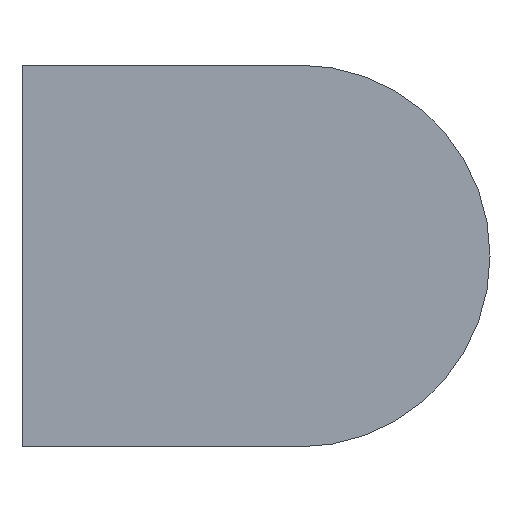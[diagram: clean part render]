
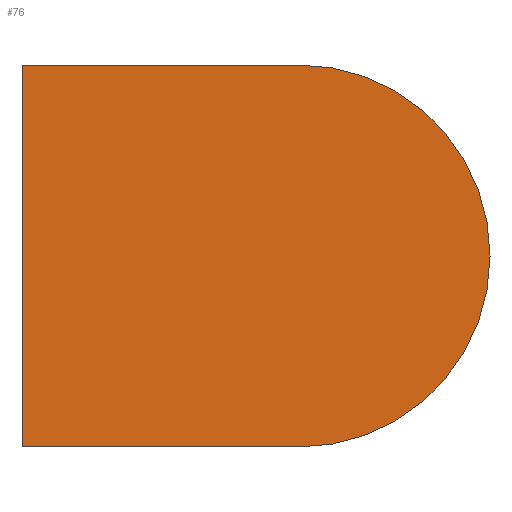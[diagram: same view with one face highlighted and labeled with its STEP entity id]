
A CAD part, front view. The second image highlights one B-rep face of the part: STEP entity #76.
In plain terms, the highlighted planar face has unit normal (0, -1, 0).
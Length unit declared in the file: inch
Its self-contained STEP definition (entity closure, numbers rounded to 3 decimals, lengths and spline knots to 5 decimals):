
#5 = LINE ( 'NONE', #176, #127 ) ;
#7 = CARTESIAN_POINT ( 'NONE',  ( -0.243, 0., -0.1675 ) ) ;
#8 = PLANE ( 'NONE',  #167 ) ;
#9 = CIRCLE ( 'NONE', #315, 0.1675 ) ;
#24 = EDGE_CURVE ( 'NONE', #110, #138, #198, .T. ) ;
#31 = CARTESIAN_POINT ( 'NONE',  ( -0.243, 0., 0.1675 ) ) ;
#32 = DIRECTION ( 'NONE',  ( 0., -1., 0. ) ) ;
#44 = EDGE_CURVE ( 'NONE', #139, #89, #9, .T. ) ;
#59 = DIRECTION ( 'NONE',  ( 1., 0., 0. ) ) ;
#60 = CARTESIAN_POINT ( 'NONE',  ( 0., 0., 0. ) ) ;
#72 = CARTESIAN_POINT ( 'NONE',  ( -0.243, 0., 0. ) ) ;
#76 = ADVANCED_FACE ( 'NONE', ( #306 ), #8, .F. ) ;
#83 = DIRECTION ( 'NONE',  ( 0., 0., 1. ) ) ;
#88 = ORIENTED_EDGE ( 'NONE', *, *, #24, .F. ) ;
#89 = VERTEX_POINT ( 'NONE', #232 ) ;
#99 = EDGE_LOOP ( 'NONE', ( #309, #88, #307, #222 ) ) ;
#103 = VECTOR ( 'NONE', #302, 39.37008 ) ;
#107 = DIRECTION ( 'NONE',  ( 0., 1., 0. ) ) ;
#110 = VERTEX_POINT ( 'NONE', #7 ) ;
#127 = VECTOR ( 'NONE', #59, 39.37008 ) ;
#135 = VECTOR ( 'NONE', #194, 39.37008 ) ;
#138 = VERTEX_POINT ( 'NONE', #31 ) ;
#139 = VERTEX_POINT ( 'NONE', #154 ) ;
#153 = LINE ( 'NONE', #303, #103 ) ;
#154 = CARTESIAN_POINT ( 'NONE',  ( 0., 0., -0.1675 ) ) ;
#161 = EDGE_CURVE ( 'NONE', #138, #89, #5, .T. ) ;
#167 = AXIS2_PLACEMENT_3D ( 'NONE', #208, #107, #83 ) ;
#176 = CARTESIAN_POINT ( 'NONE',  ( 0., 0., 0.1675 ) ) ;
#178 = EDGE_CURVE ( 'NONE', #139, #110, #153, .T. ) ;
#194 = DIRECTION ( 'NONE',  ( 0., 0., 1. ) ) ;
#198 = LINE ( 'NONE', #72, #135 ) ;
#208 = CARTESIAN_POINT ( 'NONE',  ( 0., 0., 0. ) ) ;
#222 = ORIENTED_EDGE ( 'NONE', *, *, #44, .T. ) ;
#232 = CARTESIAN_POINT ( 'NONE',  ( 0., 0., 0.1675 ) ) ;
#283 = DIRECTION ( 'NONE',  ( -1., 0., 0. ) ) ;
#302 = DIRECTION ( 'NONE',  ( -1., 0., 0. ) ) ;
#303 = CARTESIAN_POINT ( 'NONE',  ( 0., 0., -0.1675 ) ) ;
#306 = FACE_OUTER_BOUND ( 'NONE', #99, .T. ) ;
#307 = ORIENTED_EDGE ( 'NONE', *, *, #178, .F. ) ;
#309 = ORIENTED_EDGE ( 'NONE', *, *, #161, .F. ) ;
#315 = AXIS2_PLACEMENT_3D ( 'NONE', #60, #32, #283 ) ;
